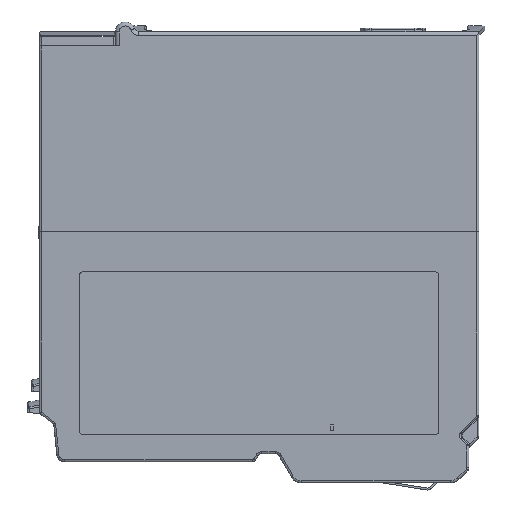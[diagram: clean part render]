
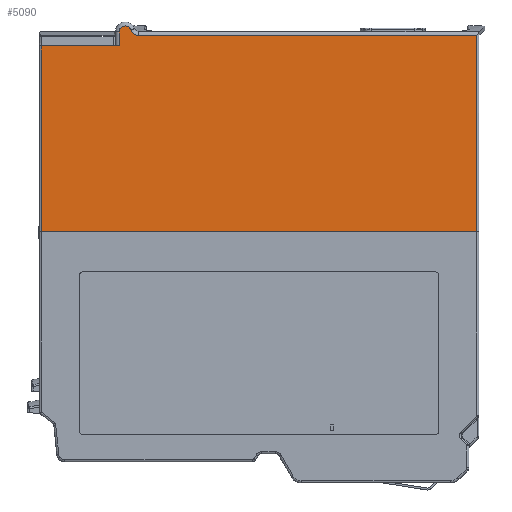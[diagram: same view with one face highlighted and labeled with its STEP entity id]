
A CAD part, left-side view. The second image highlights one B-rep face of the part: STEP entity #5090.
In plain terms, the highlighted planar face has unit normal (-1, 0, 0).
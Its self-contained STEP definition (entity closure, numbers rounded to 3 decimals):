
#5090 = ADVANCED_FACE ( 'NONE', ( #59482 ), #59483, .F. ) ;
#6737 = EDGE_CURVE ( 'NONE', #83238, #83243, #22183, .T. ) ;
#6741 = EDGE_CURVE ( 'NONE', #83249, #83245, #39063, .T. ) ;
#6748 = EDGE_CURVE ( 'NONE', #83261, #83249, #31887, .T. ) ;
#6755 = EDGE_CURVE ( 'NONE', #83264, #83261, #22370, .T. ) ;
#6767 = EDGE_CURVE ( 'NONE', #83278, #83264, #22469, .T. ) ;
#6774 = EDGE_CURVE ( 'NONE', #83245, #83284, #22515, .T. ) ;
#6776 = EDGE_CURVE ( 'NONE', #83238, #83284, #22529, .T. ) ;
#6779 = EDGE_CURVE ( 'NONE', #83243, #83278, #22544, .T. ) ;
#10268 = EDGE_LOOP ( 'NONE', ( #44457, #44453, #44452, #44554, #44551, #44593, #44590, #44587 ) ) ;
#22179 = CARTESIAN_POINT ( 'NONE',  ( -53.226, 67.632, 6.8 ) ) ;
#22183 = LINE ( 'NONE', #22179, #39060 ) ;
#22221 = DIRECTION ( 'NONE',  ( 0., 0., -1. ) ) ;
#22255 = CARTESIAN_POINT ( 'NONE',  ( -53.226, 46.632, 6.8 ) ) ;
#22259 = DIRECTION ( 'NONE',  ( -1., 0., 0. ) ) ;
#22263 = DIRECTION ( 'NONE',  ( 0., 0., -1. ) ) ;
#22284 = CARTESIAN_POINT ( 'NONE',  ( -53.226, 43.53, 5.966 ) ) ;
#22288 = CARTESIAN_POINT ( 'NONE',  ( -53.226, 43.733, 5.998 ) ) ;
#22303 = CARTESIAN_POINT ( 'NONE',  ( -53.226, 43.322, 5.966 ) ) ;
#22307 = CARTESIAN_POINT ( 'NONE',  ( -53.226, 44.128, 6.125 ) ) ;
#22311 = CARTESIAN_POINT ( 'NONE',  ( -53.226, 44.314, 6.219 ) ) ;
#22315 = CARTESIAN_POINT ( 'NONE',  ( -53.226, 44.819, 6.578 ) ) ;
#22318 = CARTESIAN_POINT ( 'NONE',  ( -53.226, 45.08, 6.921 ) ) ;
#22322 = CARTESIAN_POINT ( 'NONE',  ( -53.226, 45.222, 7.312 ) ) ;
#22370 = LINE ( 'NONE', #22380, #39079 ) ;
#22380 = CARTESIAN_POINT ( 'NONE',  ( -53.226, 500013.132, 5.966 ) ) ;
#22384 = DIRECTION ( 'NONE',  ( 0., 1., 0. ) ) ;
#22469 = LINE ( 'NONE', #22475, #39084 ) ;
#22475 = CARTESIAN_POINT ( 'NONE',  ( -53.226, -41.368, 6.8 ) ) ;
#22479 = DIRECTION ( 'NONE',  ( 0., 0., 1. ) ) ;
#22515 = LINE ( 'NONE', #22521, #39092 ) ;
#22521 = CARTESIAN_POINT ( 'NONE',  ( -53.226, 48.132, 6.8 ) ) ;
#22525 = DIRECTION ( 'NONE',  ( 0., 0., -1. ) ) ;
#22529 = LINE ( 'NONE', #22536, #39093 ) ;
#22536 = CARTESIAN_POINT ( 'NONE',  ( -53.226, 68.132, 3.3 ) ) ;
#22540 = DIRECTION ( 'NONE',  ( 0., -1., 0. ) ) ;
#22544 = LINE ( 'NONE', #22550, #39094 ) ;
#22550 = CARTESIAN_POINT ( 'NONE',  ( -53.226, -41.868, -43.2 ) ) ;
#22554 = DIRECTION ( 'NONE',  ( 0., -1., 0. ) ) ;
#31887 = B_SPLINE_CURVE_WITH_KNOTS ( 'NONE', 3,
 ( #22303, #22284, #22288, #22307, #22311, #22315, #22318, #22322 ),
 .UNSPECIFIED., .F., .F.,
 ( 4, 2, 2, 4 ),
 ( 0., 0.001, 0.001, 0.002 ),
 .UNSPECIFIED. ) ;
#39060 = VECTOR ( 'NONE', #22221, 1000. ) ;
#39063 = CIRCLE ( 'NONE', #39068, 1.5 ) ;
#39068 = AXIS2_PLACEMENT_3D ( 'NONE', #22255, #22259, #22263 ) ;
#39079 = VECTOR ( 'NONE', #22384, 1000. ) ;
#39084 = VECTOR ( 'NONE', #22479, 1000. ) ;
#39092 = VECTOR ( 'NONE', #22525, 1000. ) ;
#39093 = VECTOR ( 'NONE', #22540, 1000. ) ;
#39094 = VECTOR ( 'NONE', #22554, 1000. ) ;
#44452 = ORIENTED_EDGE ( 'NONE', *, *, #6748, .T. ) ;
#44453 = ORIENTED_EDGE ( 'NONE', *, *, #6755, .T. ) ;
#44457 = ORIENTED_EDGE ( 'NONE', *, *, #6767, .T. ) ;
#44551 = ORIENTED_EDGE ( 'NONE', *, *, #6774, .T. ) ;
#44554 = ORIENTED_EDGE ( 'NONE', *, *, #6741, .T. ) ;
#44587 = ORIENTED_EDGE ( 'NONE', *, *, #6779, .T. ) ;
#44590 = ORIENTED_EDGE ( 'NONE', *, *, #6737, .T. ) ;
#44593 = ORIENTED_EDGE ( 'NONE', *, *, #6776, .F. ) ;
#56621 = CARTESIAN_POINT ( 'NONE',  ( -53.226, 67.632, 3.3 ) ) ;
#56625 = CARTESIAN_POINT ( 'NONE',  ( -53.226, 67.632, -43.2 ) ) ;
#56627 = CARTESIAN_POINT ( 'NONE',  ( -53.226, 48.132, 6.8 ) ) ;
#56630 = CARTESIAN_POINT ( 'NONE',  ( -53.226, 45.222, 7.312 ) ) ;
#56639 = CARTESIAN_POINT ( 'NONE',  ( -53.226, 43.322, 5.966 ) ) ;
#56642 = CARTESIAN_POINT ( 'NONE',  ( -53.226, -41.368, 5.966 ) ) ;
#56658 = CARTESIAN_POINT ( 'NONE',  ( -53.226, -41.368, -43.2 ) ) ;
#56666 = CARTESIAN_POINT ( 'NONE',  ( -53.226, 48.132, 3.3 ) ) ;
#59482 = FACE_OUTER_BOUND ( 'NONE', #10268, .T. ) ;
#59483 = PLANE ( 'NONE',  #64709 ) ;
#59505 = CARTESIAN_POINT ( 'NONE',  ( -53.226, -41.868, 6.8 ) ) ;
#59506 = DIRECTION ( 'NONE',  ( 1., 0., 0. ) ) ;
#59507 = DIRECTION ( 'NONE',  ( 0., 0., -1. ) ) ;
#64709 = AXIS2_PLACEMENT_3D ( 'NONE', #59505, #59506, #59507 ) ;
#83238 = VERTEX_POINT ( 'NONE', #56621 ) ;
#83243 = VERTEX_POINT ( 'NONE', #56625 ) ;
#83245 = VERTEX_POINT ( 'NONE', #56627 ) ;
#83249 = VERTEX_POINT ( 'NONE', #56630 ) ;
#83261 = VERTEX_POINT ( 'NONE', #56639 ) ;
#83264 = VERTEX_POINT ( 'NONE', #56642 ) ;
#83278 = VERTEX_POINT ( 'NONE', #56658 ) ;
#83284 = VERTEX_POINT ( 'NONE', #56666 ) ;
